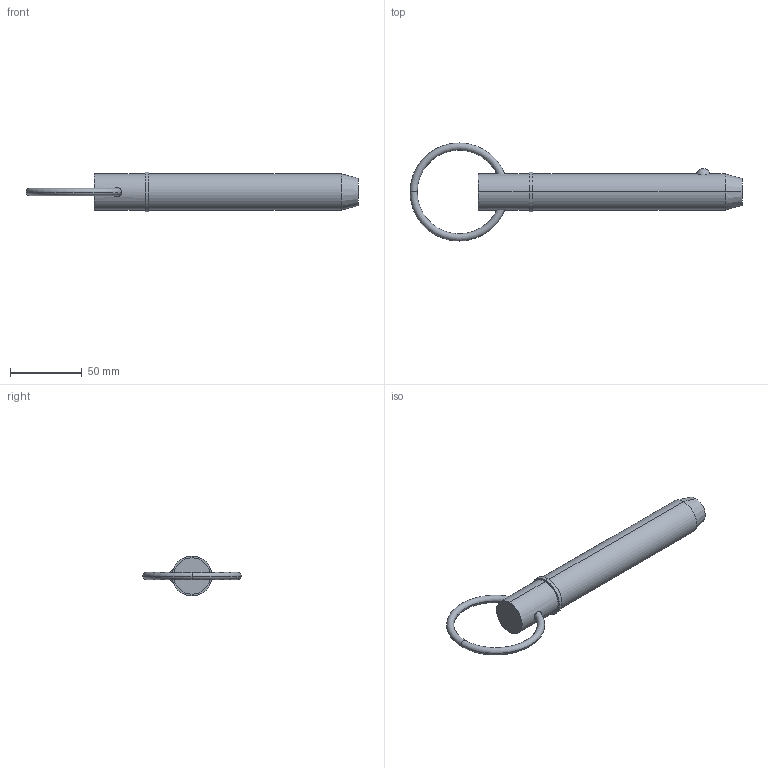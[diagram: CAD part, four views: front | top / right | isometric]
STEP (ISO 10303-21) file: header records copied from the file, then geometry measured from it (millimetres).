
FILE_DESCRIPTION (( 'STEP AP203' ), '1' );
FILE_NAME ('33016.W1045.step', '2024-11-07T11:18:52', ( '' ), ( '' ), 'SwSTEP 2.0', 'SolidWorks 2019', '' );
FILE_SCHEMA (( 'CONFIG_CONTROL_DESIGN' ));
Length unit declared in the file: millimetre
Products named in the file (3): Part2_33016.W1045; 33016.W1045; Part1_33016.W1045
Assembly tree (2 placements, depth 2):
  33016.W1045
    Part1_33016.W1045
    Part2_33016.W1045
Bounding box: 231.92 x 68.58 x 27.94 mm (x, y, z)
Volume: 95587.9 mm3; surface area: 19307.2 mm2
Topology: 2 solids, 2 shells, 22 faces, 43 edges, 26 vertices
Faces by surface type: torus 8, cylinder 6, plane 4, sphere 2, cone 2
Entity records: 1075 total; most frequent: CARTESIAN_POINT 298, DIRECTION 120, ORIENTED_EDGE 86, AXIS2_PLACEMENT_3D 56, EDGE_CURVE 43, CIRCLE 29, EDGE_LOOP 27, PERSON_AND_ORGANIZATION 26
